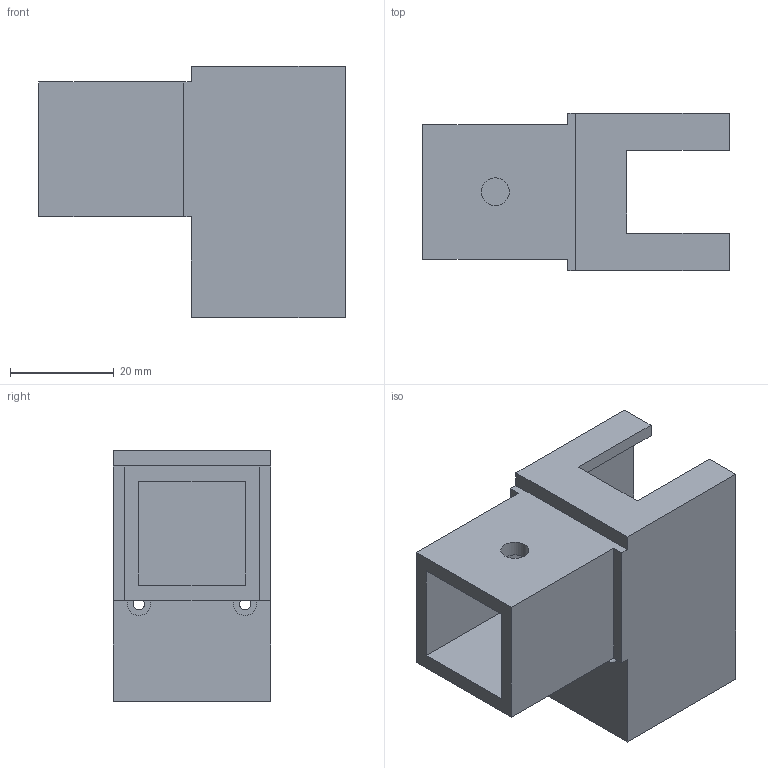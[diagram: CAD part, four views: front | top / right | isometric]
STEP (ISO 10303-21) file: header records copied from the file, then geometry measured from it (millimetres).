
FILE_DESCRIPTION(('Open CASCADE Model'),'2;1');
FILE_NAME('Open CASCADE Shape Model','2026-10-02T23:27:50',('Author'),( 'Open CASCADE'),'Open CASCADE STEP processor 7.9','Open CASCADE 7.9' ,'Unknown');
FILE_SCHEMA(('AUTOMOTIVE_DESIGN { 1 0 10303 214 1 1 1 1 }'));
Length unit declared in the file: millimetre
Products named in the file (1): Open CASCADE STEP translator 7.9 17
Bounding box: 59.2 x 30.4 x 48.5 mm (x, y, z)
Volume: 21026.8 mm3; surface area: 15078 mm2
Topology: 1 solids, 1 shells, 49 faces, 141 edges, 94 vertices
Faces by surface type: plane 41, cylinder 8
Full cylindrical faces by diameter (mm): 2.2 x2, 5.4 x1
Entity records: 3443 total; most frequent: CARTESIAN_POINT 700, DIRECTION 480, LINE 334, VECTOR 334, ORIENTED_EDGE 282, PCURVE 282, DEFINITIONAL_REPRESENTATION 282, EDGE_CURVE 141
